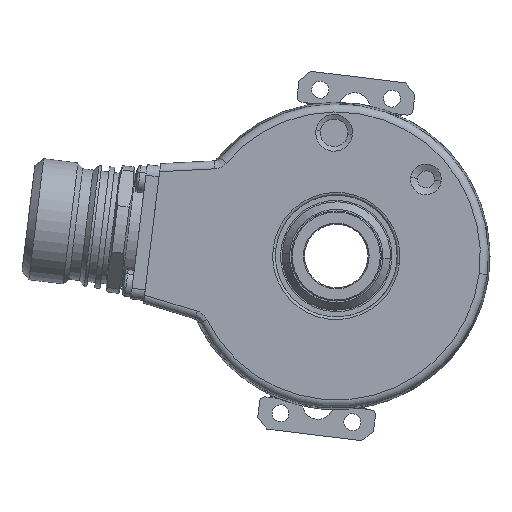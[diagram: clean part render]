
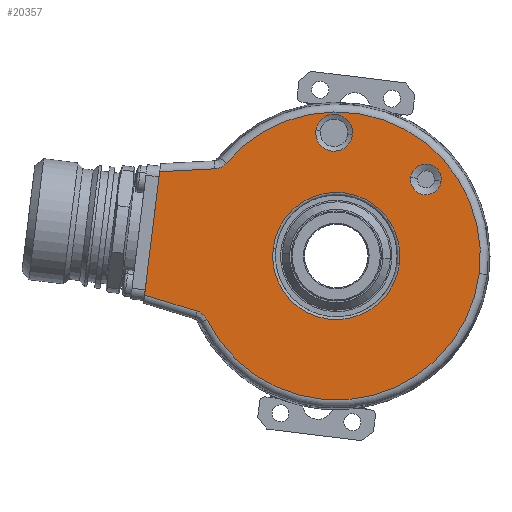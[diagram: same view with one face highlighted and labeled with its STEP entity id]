
A CAD part, left-side view. The second image highlights one B-rep face of the part: STEP entity #20357.
In plain terms, the highlighted planar face has unit normal (-1, 0, 0).
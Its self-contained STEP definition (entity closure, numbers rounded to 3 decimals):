
#7251 = CARTESIAN_POINT ( 'NONE',  ( -19., -26.97, -3.312 ) ) ;
#7272 = CARTESIAN_POINT ( 'NONE',  ( -19., 11.911, 1.462 ) ) ;
#7320 = CARTESIAN_POINT ( 'NONE',  ( -19., -14.042, 14.804 ) ) ;
#7321 = CARTESIAN_POINT ( 'NONE',  ( -19., -19.796, 14.097 ) ) ;
#7368 = CIRCLE ( 'NONE', #7373, 12. ) ;
#7373 = AXIS2_PLACEMENT_3D ( 'NONE', #7422, #7421, #7420 ) ;
#7419 = CARTESIAN_POINT ( 'NONE',  ( -19., -11.911, -1.462 ) ) ;
#7420 = DIRECTION ( 'NONE',  ( 0., -0.993, -0.122 ) ) ;
#7421 = DIRECTION ( 'NONE',  ( 1., 0., 0. ) ) ;
#7422 = CARTESIAN_POINT ( 'NONE',  ( -19., 0., 0. ) ) ;
#7454 = DIRECTION ( 'NONE',  ( 0., -0.993, -0.122 ) ) ;
#7455 = DIRECTION ( 'NONE',  ( 1., 0., 0. ) ) ;
#7456 = CARTESIAN_POINT ( 'NONE',  ( -19., -16.919, 14.45 ) ) ;
#7457 = AXIS2_PLACEMENT_3D ( 'NONE', #7456, #7455, #7454 ) ;
#7460 = CIRCLE ( 'NONE', #7457, 2.899 ) ;
#7466 = CARTESIAN_POINT ( 'NONE',  ( -19., 0., 0. ) ) ;
#7507 = CARTESIAN_POINT ( 'NONE',  ( -19., 20.777, 17.512 ) ) ;
#7508 = DIRECTION ( 'NONE',  ( 0., -0.993, -0.122 ) ) ;
#7509 = DIRECTION ( 'NONE',  ( -1., 0., 0. ) ) ;
#7510 = AXIS2_PLACEMENT_3D ( 'NONE', #7466, #7509, #7508 ) ;
#7511 = CIRCLE ( 'NONE', #7510, 27.173 ) ;
#7537 = AXIS2_PLACEMENT_3D ( 'NONE', #7592, #7591, #7590 ) ;
#7538 = CIRCLE ( 'NONE', #7537, 3.466 ) ;
#7540 = CARTESIAN_POINT ( 'NONE',  ( -19., -3.034, 22.824 ) ) ;
#7589 = CARTESIAN_POINT ( 'NONE',  ( -19., 3.846, 23.669 ) ) ;
#7590 = DIRECTION ( 'NONE',  ( 0., -0.993, -0.122 ) ) ;
#7591 = DIRECTION ( 'NONE',  ( 1., 0., 0. ) ) ;
#7592 = CARTESIAN_POINT ( 'NONE',  ( -19., 0.406, 23.246 ) ) ;
#7707 = LINE ( 'NONE', #7757, #7756 ) ;
#7708 = CARTESIAN_POINT ( 'NONE',  ( -19., 33.31, 15.905 ) ) ;
#7710 = CARTESIAN_POINT ( 'NONE',  ( -19., 22.914, 16.45 ) ) ;
#7755 = DIRECTION ( 'NONE',  ( 0., 0.999, -0.052 ) ) ;
#7756 = VECTOR ( 'NONE', #7755, 1000. ) ;
#7757 = CARTESIAN_POINT ( 'NONE',  ( -19., 33.046, 15.919 ) ) ;
#7866 = DIRECTION ( 'NONE',  ( 0., -0.122, 0.993 ) ) ;
#7867 = VECTOR ( 'NONE', #7866, 1000. ) ;
#7868 = CARTESIAN_POINT ( 'NONE',  ( -19., 36.354, -8.886 ) ) ;
#7869 = LINE ( 'NONE', #7868, #7867 ) ;
#7911 = CARTESIAN_POINT ( 'NONE',  ( -19., 36.168, -7.374 ) ) ;
#8203 = CIRCLE ( 'NONE', #8252, 3.466 ) ;
#8225 = DIRECTION ( 'NONE',  ( 0., -0.993, -0.122 ) ) ;
#8226 = DIRECTION ( 'NONE',  ( 1., 0., 0. ) ) ;
#8227 = CARTESIAN_POINT ( 'NONE',  ( -19., 0., 0. ) ) ;
#8228 = AXIS2_PLACEMENT_3D ( 'NONE', #8227, #8226, #8225 ) ;
#8229 = PLANE ( 'NONE',  #8228 ) ;
#8245 = FACE_OUTER_BOUND ( 'NONE', #20367, .T. ) ;
#8246 = FACE_BOUND ( 'NONE', #20364, .T. ) ;
#8247 = FACE_BOUND ( 'NONE', #20361, .T. ) ;
#8248 = FACE_BOUND ( 'NONE', #20355, .T. ) ;
#8249 = DIRECTION ( 'NONE',  ( 0., -0.993, -0.122 ) ) ;
#8250 = DIRECTION ( 'NONE',  ( 1., 0., 0. ) ) ;
#8251 = CARTESIAN_POINT ( 'NONE',  ( -19., 0.406, 23.246 ) ) ;
#8252 = AXIS2_PLACEMENT_3D ( 'NONE', #8251, #8250, #8249 ) ;
#8277 = DIRECTION ( 'NONE',  ( 0., -0.993, -0.122 ) ) ;
#8278 = DIRECTION ( 'NONE',  ( 1., 0., 0. ) ) ;
#8279 = CARTESIAN_POINT ( 'NONE',  ( -19., -16.919, 14.45 ) ) ;
#8280 = AXIS2_PLACEMENT_3D ( 'NONE', #8279, #8278, #8277 ) ;
#8281 = CIRCLE ( 'NONE', #8280, 2.899 ) ;
#8297 = DIRECTION ( 'NONE',  ( 0., -0.956, -0.292 ) ) ;
#8298 = VECTOR ( 'NONE', #8297, 1000. ) ;
#8299 = CARTESIAN_POINT ( 'NONE',  ( -19., 25.556, -10.618 ) ) ;
#8300 = LINE ( 'NONE', #8299, #8298 ) ;
#8302 = CARTESIAN_POINT ( 'NONE',  ( -19., 26.213, -10.418 ) ) ;
#8328 = CARTESIAN_POINT ( 'NONE',  ( -19., 24.396, -11.966 ) ) ;
#8510 = CARTESIAN_POINT ( 'NONE',  ( -19., 26.213, -10.418 ) ) ;
#8511 = CARTESIAN_POINT ( 'NONE',  ( -19., 26.016, -10.478 ) ) ;
#8512 = CARTESIAN_POINT ( 'NONE',  ( -19., 25.828, -10.557 ) ) ;
#8513 = CARTESIAN_POINT ( 'NONE',  ( -19., 25.471, -10.753 ) ) ;
#8514 = CARTESIAN_POINT ( 'NONE',  ( -19., 25.3, -10.87 ) ) ;
#8515 = CARTESIAN_POINT ( 'NONE',  ( -19., 24.989, -11.135 ) ) ;
#8516 = CARTESIAN_POINT ( 'NONE',  ( -19., 24.848, -11.282 ) ) ;
#8517 = CARTESIAN_POINT ( 'NONE',  ( -19., 24.597, -11.605 ) ) ;
#8518 = CARTESIAN_POINT ( 'NONE',  ( -19., 24.487, -11.781 ) ) ;
#8519 = CARTESIAN_POINT ( 'NONE',  ( -19., 24.396, -11.966 ) ) ;
#8528 = B_SPLINE_CURVE_WITH_KNOTS ( 'NONE', 3,
 ( #8519, #8518, #8517, #8516, #8515, #8514, #8513, #8512, #8511, #8510 ),
 .UNSPECIFIED., .F., .F.,
 ( 4, 2, 2, 2, 4 ),
 ( 0., 0.001, 0.001, 0.002, 0.002 ),
 .UNSPECIFIED. ) ;
#8547 = DIRECTION ( 'NONE',  ( 0., -0.993, -0.122 ) ) ;
#8548 = DIRECTION ( 'NONE',  ( 1., 0., 0. ) ) ;
#8549 = CARTESIAN_POINT ( 'NONE',  ( -19., 0., 0. ) ) ;
#8550 = AXIS2_PLACEMENT_3D ( 'NONE', #8549, #8548, #8547 ) ;
#8551 = CIRCLE ( 'NONE', #8550, 12. ) ;
#8553 = DIRECTION ( 'NONE',  ( 0., -0.993, -0.122 ) ) ;
#8554 = DIRECTION ( 'NONE',  ( -1., 0., 0. ) ) ;
#8555 = CARTESIAN_POINT ( 'NONE',  ( -19., 0., 0. ) ) ;
#8556 = AXIS2_PLACEMENT_3D ( 'NONE', #8555, #8554, #8553 ) ;
#8561 = CIRCLE ( 'NONE', #8556, 27.173 ) ;
#8796 = CARTESIAN_POINT ( 'NONE',  ( -19., 20.777, 17.512 ) ) ;
#8797 = CARTESIAN_POINT ( 'NONE',  ( -19., 20.91, 17.355 ) ) ;
#8798 = CARTESIAN_POINT ( 'NONE',  ( -19., 21.056, 17.213 ) ) ;
#8799 = CARTESIAN_POINT ( 'NONE',  ( -19., 21.376, 16.962 ) ) ;
#8800 = CARTESIAN_POINT ( 'NONE',  ( -19., 21.552, 16.851 ) ) ;
#8801 = CARTESIAN_POINT ( 'NONE',  ( -19., 21.917, 16.669 ) ) ;
#8802 = CARTESIAN_POINT ( 'NONE',  ( -19., 22.108, 16.597 ) ) ;
#8803 = CARTESIAN_POINT ( 'NONE',  ( -19., 22.503, 16.493 ) ) ;
#8804 = CARTESIAN_POINT ( 'NONE',  ( -19., 22.708, 16.461 ) ) ;
#8805 = CARTESIAN_POINT ( 'NONE',  ( -19., 22.914, 16.45 ) ) ;
#8811 = B_SPLINE_CURVE_WITH_KNOTS ( 'NONE', 3,
 ( #8805, #8804, #8803, #8802, #8801, #8800, #8799, #8798, #8797, #8796 ),
 .UNSPECIFIED., .F., .F.,
 ( 4, 2, 2, 2, 4 ),
 ( 0., 0.001, 0.001, 0.002, 0.002 ),
 .UNSPECIFIED. ) ;
#20040 = VERTEX_POINT ( 'NONE', #7251 ) ;
#20052 = VERTEX_POINT ( 'NONE', #7272 ) ;
#20072 = VERTEX_POINT ( 'NONE', #7321 ) ;
#20074 = VERTEX_POINT ( 'NONE', #7320 ) ;
#20085 = EDGE_CURVE ( 'NONE', #20086, #20052, #7368, .T. ) ;
#20086 = VERTEX_POINT ( 'NONE', #7419 ) ;
#20092 = EDGE_CURVE ( 'NONE', #20074, #20072, #7460, .T. ) ;
#20109 = EDGE_CURVE ( 'NONE', #20040, #20110, #7511, .T. ) ;
#20110 = VERTEX_POINT ( 'NONE', #7507 ) ;
#20132 = VERTEX_POINT ( 'NONE', #7540 ) ;
#20134 = EDGE_CURVE ( 'NONE', #20135, #20132, #7538, .T. ) ;
#20135 = VERTEX_POINT ( 'NONE', #7589 ) ;
#20178 = VERTEX_POINT ( 'NONE', #7710 ) ;
#20182 = VERTEX_POINT ( 'NONE', #7708 ) ;
#20184 = EDGE_CURVE ( 'NONE', #20178, #20182, #7707, .T. ) ;
#20246 = EDGE_CURVE ( 'NONE', #20247, #20182, #7869, .T. ) ;
#20247 = VERTEX_POINT ( 'NONE', #7911 ) ;
#20355 = EDGE_LOOP ( 'NONE', ( #20358, #20359 ) ) ;
#20356 = EDGE_CURVE ( 'NONE', #20132, #20135, #8203, .T. ) ;
#20357 = ADVANCED_FACE ( 'NONE', ( #8248, #8247, #8246, #8245 ), #8229, .F. ) ;
#20358 = ORIENTED_EDGE ( 'NONE', *, *, #20092, .T. ) ;
#20359 = ORIENTED_EDGE ( 'NONE', *, *, #20360, .T. ) ;
#20360 = EDGE_CURVE ( 'NONE', #20072, #20074, #8281, .T. ) ;
#20361 = EDGE_LOOP ( 'NONE', ( #20362, #20363 ) ) ;
#20362 = ORIENTED_EDGE ( 'NONE', *, *, #20134, .T. ) ;
#20363 = ORIENTED_EDGE ( 'NONE', *, *, #20356, .T. ) ;
#20364 = EDGE_LOOP ( 'NONE', ( #20365, #20366 ) ) ;
#20365 = ORIENTED_EDGE ( 'NONE', *, *, #20085, .T. ) ;
#20366 = ORIENTED_EDGE ( 'NONE', *, *, #20408, .T. ) ;
#20367 = EDGE_LOOP ( 'NONE', ( #20368, #20449, #20450, #20451, #20452, #20453, #20454 ) ) ;
#20368 = ORIENTED_EDGE ( 'NONE', *, *, #20444, .F. ) ;
#20384 = VERTEX_POINT ( 'NONE', #8302 ) ;
#20386 = EDGE_CURVE ( 'NONE', #20247, #20384, #8300, .T. ) ;
#20393 = VERTEX_POINT ( 'NONE', #8328 ) ;
#20399 = EDGE_CURVE ( 'NONE', #20393, #20384, #8528, .T. ) ;
#20404 = EDGE_CURVE ( 'NONE', #20393, #20040, #8561, .T. ) ;
#20408 = EDGE_CURVE ( 'NONE', #20052, #20086, #8551, .T. ) ;
#20444 = EDGE_CURVE ( 'NONE', #20178, #20110, #8811, .T. ) ;
#20449 = ORIENTED_EDGE ( 'NONE', *, *, #20184, .T. ) ;
#20450 = ORIENTED_EDGE ( 'NONE', *, *, #20246, .F. ) ;
#20451 = ORIENTED_EDGE ( 'NONE', *, *, #20386, .T. ) ;
#20452 = ORIENTED_EDGE ( 'NONE', *, *, #20399, .F. ) ;
#20453 = ORIENTED_EDGE ( 'NONE', *, *, #20404, .T. ) ;
#20454 = ORIENTED_EDGE ( 'NONE', *, *, #20109, .T. ) ;
